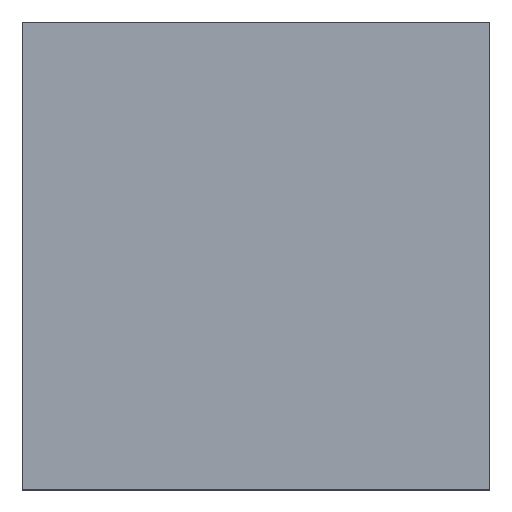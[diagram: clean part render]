
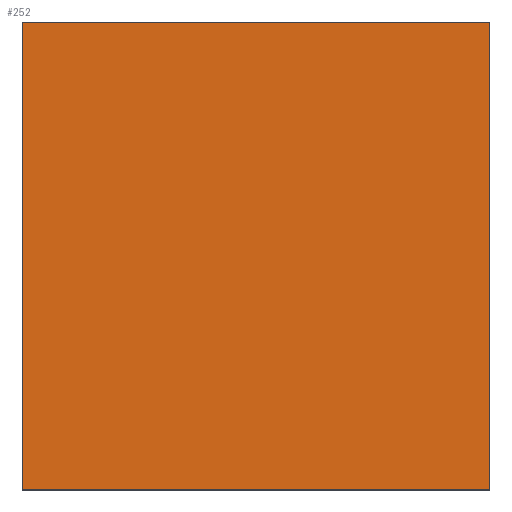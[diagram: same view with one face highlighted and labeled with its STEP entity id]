
A CAD part, top view. The second image highlights one B-rep face of the part: STEP entity #252.
In plain terms, the highlighted planar face has unit normal (0, 0, 1).
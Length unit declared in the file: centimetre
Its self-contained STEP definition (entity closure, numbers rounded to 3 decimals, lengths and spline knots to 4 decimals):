
#12 = DIRECTION ( 'NONE',  ( 0., 1., 0. ) ) ;
#39 = EDGE_CURVE ( 'NONE', #435, #720, #95, .T. ) ;
#50 = CARTESIAN_POINT ( 'NONE',  ( 1000., 0., 1000. ) ) ;
#76 = ORIENTED_EDGE ( 'NONE', *, *, #682, .T. ) ;
#95 = LINE ( 'NONE', #730, #217 ) ;
#97 = LINE ( 'NONE', #1073, #893 ) ;
#128 = CARTESIAN_POINT ( 'NONE',  ( 0., 1000., 1000. ) ) ;
#153 = CARTESIAN_POINT ( 'NONE',  ( 0., 0., 1000. ) ) ;
#210 = EDGE_CURVE ( 'NONE', #716, #435, #657, .T. ) ;
#217 = VECTOR ( 'NONE', #12, 100. ) ;
#240 = VERTEX_POINT ( 'NONE', #128 ) ;
#252 = ADVANCED_FACE ( 'NONE', ( #513 ), #508, .T. ) ;
#258 = VECTOR ( 'NONE', #1084, 100. ) ;
#380 = VECTOR ( 'NONE', #949, 100. ) ;
#435 = VERTEX_POINT ( 'NONE', #50 ) ;
#452 = CARTESIAN_POINT ( 'NONE',  ( 0., 0., 1000. ) ) ;
#497 = CARTESIAN_POINT ( 'NONE',  ( 0., 0., 1000. ) ) ;
#508 = PLANE ( 'NONE',  #553 ) ;
#513 = FACE_OUTER_BOUND ( 'NONE', #670, .T. ) ;
#553 = AXIS2_PLACEMENT_3D ( 'NONE', #153, #774, #1130 ) ;
#604 = ORIENTED_EDGE ( 'NONE', *, *, #39, .T. ) ;
#657 = LINE ( 'NONE', #497, #258 ) ;
#670 = EDGE_LOOP ( 'NONE', ( #76, #793, #604, #704 ) ) ;
#682 = EDGE_CURVE ( 'NONE', #240, #716, #1117, .T. ) ;
#685 = CARTESIAN_POINT ( 'NONE',  ( 0., 1000., 1000. ) ) ;
#704 = ORIENTED_EDGE ( 'NONE', *, *, #929, .T. ) ;
#716 = VERTEX_POINT ( 'NONE', #452 ) ;
#720 = VERTEX_POINT ( 'NONE', #970 ) ;
#730 = CARTESIAN_POINT ( 'NONE',  ( 1000., 1000., 1000. ) ) ;
#774 = DIRECTION ( 'NONE',  ( 0., 0., 1. ) ) ;
#793 = ORIENTED_EDGE ( 'NONE', *, *, #210, .T. ) ;
#887 = DIRECTION ( 'NONE',  ( -1., 0., 0. ) ) ;
#893 = VECTOR ( 'NONE', #887, 100. ) ;
#929 = EDGE_CURVE ( 'NONE', #720, #240, #97, .T. ) ;
#949 = DIRECTION ( 'NONE',  ( 0., -1., 0. ) ) ;
#970 = CARTESIAN_POINT ( 'NONE',  ( 1000., 1000., 1000. ) ) ;
#1073 = CARTESIAN_POINT ( 'NONE',  ( 0., 1000., 1000. ) ) ;
#1084 = DIRECTION ( 'NONE',  ( 1., 0., 0. ) ) ;
#1117 = LINE ( 'NONE', #685, #380 ) ;
#1130 = DIRECTION ( 'NONE',  ( 1., 0., 0. ) ) ;
